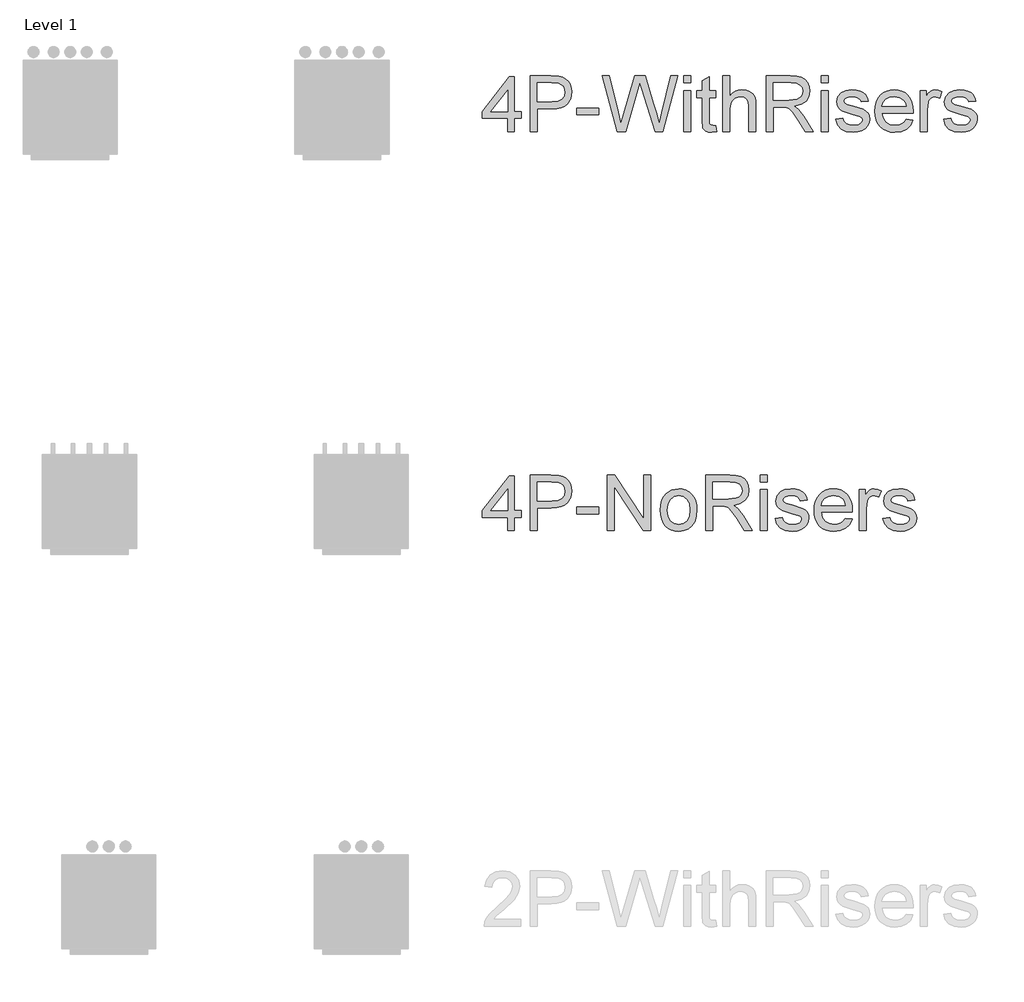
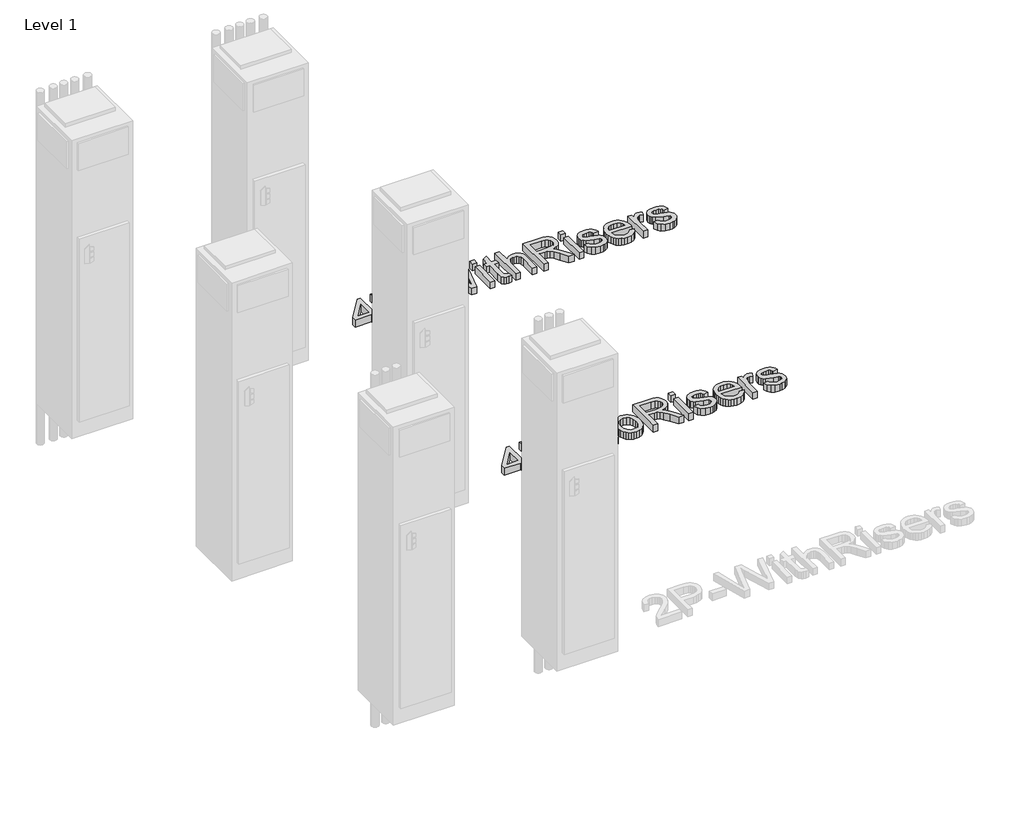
# One storey, part 2 of 2: 2 proxies.
"""IFC4 building model written with IfcOpenShell, lengths in millimetres."""

from ifc_helpers import new_model, si_unit, origin, origin_with_axes, place, context, project, spatial, polyline, outline, extrude, element, save

model = new_model("IFC4")

# Units and contexts
model_context = context("Model", 3, world=origin())
ifc_project = project(units=[si_unit("LENGTHUNIT", "METRE", prefix="MILLI")], contexts=[model_context])

# Site, building, storey
site = spatial("IfcSite", under=ifc_project)
building = spatial("IfcBuilding", under=site)
storey = spatial("IfcBuildingStorey", under=building, Name="Level 1", Elevation=0.0)

# Proxies
placement = place(None, origin())
element("IfcBuildingElementProxy", 1, Name="12\" Arial", ObjectType="12\" Arial", at=placement, inside=storey, context=model_context, shape_type="SweptSolid", body=[
    extrude(outline(polyline([(-12761.6441001, 1373.4966176), (-12761.6441001, 1433.2995147), (-12877.2630346, 1433.2995147), (-12877.2630346, 1465.1943932), (-12753.6703805, 1624.6687856), (-12729.7492217, 1624.6687856), (-12729.7492217, 1465.1943932), (-12697.8543432, 1465.1943932), (-12697.8543432, 1433.2995147), (-12729.7492217, 1433.2995147), (-12729.7492217, 1373.4966176), (-12761.6441001, 1373.4966176)]), holes=[polyline([(-12761.6441001, 1465.1943932), (-12761.6441001, 1563.7445841), (-12838.0173834, 1465.1943932), (-12761.6441001, 1465.1943932)])]), origin_with_axes(), (0.0, 0.0, 1.0), 50.8),
    extrude(outline(polyline([(-12657.9857451, 1373.4966176), (-12657.9857451, 1628.6556454), (-12563.422414, 1628.6556454), (-12525.2980671, 1626.2261527), (-12508.2994051, 1621.6864275), (-12494.3064615, 1614.2967206), (-12483.0389105, 1603.7221979), (-12474.2164258, 1589.6280255), (-12468.5164622, 1573.0031316), (-12466.6164743, 1554.8364442), (-12471.7479989, 1524.7636853), (-12487.1425728, 1499.7056484), (-12499.4710802, 1489.8397278), (-12515.9305039, 1482.7926416), (-12536.5208438, 1478.5643899), (-12561.2421001, 1477.1549726), (-12626.0908666, 1477.1549726), (-12626.0908666, 1373.4966176), (-12657.9857451, 1373.4966176)]), holes=[polyline([(-12626.0908666, 1509.0498511), (-12559.3732595, 1509.0498511), (-12531.0914727, 1511.9777013), (-12512.4030674, 1520.7612518), (-12501.9842814, 1534.8554242), (-12498.5113527, 1553.7151399), (-12500.5592905, 1568.0429173), (-12506.7031038, 1580.1280861), (-12516.1796826, 1589.2231101), (-12528.2259173, 1594.5804529), (-12560.1207957, 1596.7607669), (-12626.0908666, 1596.7607669), (-12626.0908666, 1509.0498511)])]), origin_with_axes(), (0.0, 0.0, 1.0), 50.8),
    extrude(outline(polyline([(-12442.6953154, 1449.246954), (-12442.6953154, 1481.1418324), (-12343.0238202, 1481.1418324), (-12343.0238202, 1449.246954), (-12442.6953154, 1449.246954)])), origin_with_axes(), (0.0, 0.0, 1.0), 50.8),
    extrude(outline(polyline([(-12303.1552221, 1373.4966176), (-12303.1552221, 1628.6556454), (-12269.017735, 1628.6556454), (-12135.7071101, 1426.5093941), (-12135.7071101, 1628.6556454), (-12103.8122316, 1628.6556454), (-12103.8122316, 1373.4966176), (-12137.9497188, 1373.4966176), (-12271.2603436, 1575.7051635), (-12271.2603436, 1373.4966176), (-12303.1552221, 1373.4966176)])), origin_with_axes(), (0.0, 0.0, 1.0), 50.8),
    extrude(outline(polyline([(-12059.9567737, 1467.1878231), (-12058.2319897, 1491.4554961), (-12053.0576374, 1512.367043), (-12044.4337171, 1529.9224638), (-12032.3602285, 1544.1217585), (-12006.7882605, 1559.6798559), (-11976.1704231, 1564.8658884), (-11958.5741214, 1563.2871075), (-11942.6636696, 1558.5507648), (-11928.4390678, 1550.6568602), (-11915.9003158, 1539.6053938), (-11905.6664672, 1525.7701338), (-11898.3565753, 1509.5248481), (-11893.9706401, 1490.8695368), (-11892.5086618, 1469.8041998), (-11895.0938912, 1437.5822743), (-11902.8495794, 1413.0537422), (-11915.5499082, 1394.6845972), (-11932.9690594, 1380.9408324), (-11953.6586815, 1372.3675264), (-11976.1704231, 1369.5097578), (-11994.0236903, 1371.0826986), (-12010.082092, 1375.8015209), (-12024.345628, 1383.6662248), (-12036.8142985, 1394.6768103), (-12046.9391314, 1408.6463933), (-12054.1711549, 1425.3880898), (-12058.510369, 1444.9018997), (-12059.9567737, 1467.1878231)]), holes=[polyline([(-12028.0618953, 1467.2501178), (-12024.3709352, 1438.3843183), (-12013.298055, 1417.8192856), (-11996.6342269, 1405.5082986), (-11976.1704231, 1401.4046362), (-11955.8000612, 1405.5316591), (-11939.1673805, 1417.9127276), (-11928.0945003, 1438.7502996), (-11924.4035402, 1468.2468327), (-11928.1178608, 1496.2716539), (-11939.2608225, 1516.5563606), (-11955.9168638, 1528.8673476), (-11976.1704231, 1532.9710099), (-11996.6342269, 1528.8829213), (-12013.298055, 1516.6186553), (-12024.3709352, 1496.1003435), (-12028.0618953, 1467.2501178)])]), origin_with_axes(), (0.0, 0.0, 1.0), 50.8),
    extrude(outline(polyline([(-11852.6400637, 1373.4966176), (-11852.6400637, 1628.6556454), (-11742.6899455, 1628.6556454), (-11713.1389045, 1626.9347547), (-11691.6394515, 1621.7720827), (-11675.9256174, 1612.240996), (-11663.7314329, 1597.4148611), (-11655.9056631, 1579.0301423), (-11653.2970732, 1558.823304), (-11657.618767, 1533.6873988), (-11670.5838482, 1512.8498268), (-11692.5816586, 1497.5720555), (-11724.0015402, 1489.115552), (-11705.873787, 1475.4730161), (-11680.0214929, 1442.6437174), (-11637.4742234, 1373.4966176), (-11674.5395606, 1373.4966176), (-11707.7426275, 1426.3848047), (-11731.726081, 1461.3944174), (-11748.5767932, 1477.9336562), (-11763.7455489, 1484.0073879), (-11782.2470702, 1485.1286922), (-11820.7451852, 1485.1286922), (-11820.7451852, 1373.4966176), (-11852.6400637, 1373.4966176)]), holes=[polyline([(-11820.7451852, 1517.0235707), (-11749.3554768, 1517.0235707), (-11712.9442337, 1521.5399353), (-11700.9680806, 1527.4112094), (-11692.2623984, 1535.9923021), (-11686.9595634, 1546.372154), (-11685.1919517, 1557.639705), (-11688.5636515, 1573.1978025), (-11698.6787509, 1585.7346077), (-11716.0823284, 1594.0042271), (-11741.3194624, 1596.7607669), (-11820.7451852, 1596.7607669), (-11820.7451852, 1517.0235707)])]), origin_with_axes(), (0.0, 0.0, 1.0), 50.8),
    extrude(outline(polyline([(-11601.4678957, 1596.7607669), (-11601.4678957, 1628.6556454), (-11569.5730172, 1628.6556454), (-11569.5730172, 1596.7607669), (-11601.4678957, 1596.7607669)])), origin_with_axes(), (0.0, 0.0, 1.0), 50.8),
    extrude(outline(polyline([(-11601.4678957, 1373.4966176), (-11601.4678957, 1560.8790286), (-11569.5730172, 1560.8790286), (-11569.5730172, 1373.4966176), (-11601.4678957, 1373.4966176)])), origin_with_axes(), (0.0, 0.0, 1.0), 50.8),
    extrude(outline(polyline([(-11533.691279, 1429.3126549), (-11501.7964005, 1433.2995147), (-11496.7661047, 1419.6569788), (-11487.0325603, 1409.6275346), (-11472.5334724, 1403.4603608), (-11453.2065466, 1401.4046362), (-11434.1132258, 1403.2890505), (-11420.6887212, 1408.9422931), (-11412.746149, 1417.1340441), (-11410.0986249, 1426.6339835), (-11412.7617226, 1434.7634398), (-11420.7510159, 1440.9617609), (-11453.5803147, 1450.0567849), (-11501.6095164, 1465.6616033), (-11513.7647667, 1473.5029467), (-11522.5716778, 1483.8827985), (-11527.9212338, 1496.1392777), (-11529.7044191, 1509.6105032), (-11523.9733082, 1533.3759254), (-11508.3373424, 1551.5348259), (-11488.0604225, 1560.9724706), (-11460.619614, 1564.8658884), (-11439.8599104, 1563.3007345), (-11421.8100256, 1558.6052726), (-11407.2953641, 1551.2389262), (-11397.1413305, 1541.6611184), (-11390.4135046, 1529.1632474), (-11386.177466, 1513.0367109), (-11418.0723445, 1509.0498511), (-11422.0981385, 1519.0870821), (-11430.0640713, 1526.6480995), (-11442.0480112, 1531.3902823), (-11458.1278266, 1532.9710099), (-11476.4424639, 1531.4603638), (-11488.652222, 1526.9284255), (-11495.520211, 1520.3874837), (-11497.8095407, 1512.8498268), (-11494.0095649, 1503.5679189), (-11482.1112802, 1496.5286195), (-11454.6393243, 1489.7384989), (-11407.8248689, 1474.7254799), (-11395.459374, 1467.5460175), (-11386.084024, 1457.719031), (-11380.1738158, 1445.2133731), (-11378.2037464, 1429.9978964), (-11380.5164366, 1414.2684886), (-11387.4545071, 1399.473501), (-11398.7532055, 1386.7731722), (-11414.1477794, 1377.3277407), (-11432.7427427, 1371.4642535), (-11453.6426093, 1369.5097578), (-11485.8022402, 1373.2785862), (-11509.2717626, 1384.5850714), (-11524.9388758, 1403.3046241), (-11533.691279, 1429.3126549)])), origin_with_axes(), (0.0, 0.0, 1.0), 50.8),
    extrude(outline(polyline([(-11211.1294025, 1429.3126549), (-11179.8574709, 1425.3257951), (-11191.125022, 1401.7628307), (-11209.1048253, 1384.1490086), (-11233.3919654, 1373.1695705), (-11263.5815269, 1369.5097578), (-11283.3717695, 1371.0885387), (-11301.0050586, 1375.8248814), (-11316.4813943, 1383.718786), (-11329.8007765, 1394.7702523), (-11340.5115688, 1408.6717005), (-11348.1621348, 1425.1155505), (-11352.7524744, 1444.1018024), (-11354.2825875, 1465.630456), (-11352.7369007, 1487.8891254), (-11348.0998401, 1507.5080576), (-11340.3714058, 1524.4872526), (-11329.5515978, 1538.8267103), (-11316.2672563, 1550.2188507), (-11301.1452217, 1558.3560939), (-11284.1854938, 1563.2384398), (-11265.3880727, 1564.8658884), (-11247.1960782, 1563.2423332), (-11230.7444413, 1558.3716676), (-11216.0331622, 1550.2538915), (-11203.0622409, 1538.889005), (-11192.4740912, 1524.5806946), (-11184.9111272, 1507.632647), (-11180.3733488, 1488.0448622), (-11178.8607559, 1465.81734), (-11179.04764, 1457.2206736), (-11322.3877091, 1457.2206736), (-11316.8668427, 1433.3462357), (-11304.0419245, 1415.7947084), (-11285.5326163, 1405.0021543), (-11262.95858, 1401.4046362), (-11245.9832785, 1403.0710191), (-11231.6866484, 1408.0701675), (-11220.0686898, 1416.713555), (-11211.1294025, 1429.3126549)]), holes=[polyline([(-11322.3877091, 1489.115552), (-11210.7556344, 1489.115552), (-11215.0695413, 1505.9662642), (-11223.5260447, 1518.0202857), (-11242.1210081, 1529.2333289), (-11265.5126621, 1532.9710099), (-11287.0121151, 1529.9886519), (-11304.7894607, 1521.0415779), (-11317.1471687, 1507.0953554), (-11322.3877091, 1489.115552)])]), origin_with_axes(), (0.0, 0.0, 1.0), 50.8),
    extrude(outline(polyline([(-11146.9658775, 1373.4966176), (-11146.9658775, 1560.8790286), (-11119.0578588, 1560.8790286), (-11119.0578588, 1533.157894), (-11108.7480885, 1549.2299226), (-11099.2481491, 1558.6987146), (-11089.7170624, 1563.324095), (-11079.3138501, 1564.8658884), (-11063.4287055, 1562.4052484), (-11047.2943822, 1555.0233283), (-11057.9467733, 1526.4300681), (-11080.3728597, 1532.9710099), (-11089.8961596, 1531.3980692), (-11098.4071709, 1526.6792468), (-11105.2829467, 1519.1727373), (-11109.9005402, 1509.2367351), (-11115.070999, 1471.9845138), (-11115.070999, 1373.4966176), (-11146.9658775, 1373.4966176)])), origin_with_axes(), (0.0, 0.0, 1.0), 50.8),
    extrude(outline(polyline([(-11039.3206626, 1429.3126549), (-11007.4257842, 1433.2995147), (-11002.3954884, 1419.6569788), (-10992.6619439, 1409.6275346), (-10978.1628561, 1403.4603608), (-10958.8359302, 1401.4046362), (-10939.7426094, 1403.2890505), (-10926.3181049, 1408.9422931), (-10918.3755326, 1417.1340441), (-10915.7280085, 1426.6339835), (-10918.3911063, 1434.7634398), (-10926.3803996, 1440.9617609), (-10959.2096983, 1450.0567849), (-11007.2389001, 1465.6616033), (-11019.3941504, 1473.5029467), (-11028.2010614, 1483.8827985), (-11033.5506175, 1496.1392777), (-11035.3338028, 1509.6105032), (-11029.6026918, 1533.3759254), (-11013.966726, 1551.5348259), (-10993.6898062, 1560.9724706), (-10966.2489977, 1564.8658884), (-10945.4892941, 1563.3007345), (-10927.4394092, 1558.6052726), (-10912.9247477, 1551.2389262), (-10902.7707142, 1541.6611184), (-10896.0428882, 1529.1632474), (-10891.8068497, 1513.0367109), (-10923.7017282, 1509.0498511), (-10927.7275222, 1519.0870821), (-10935.6934549, 1526.6480995), (-10947.6773949, 1531.3902823), (-10963.7572103, 1532.9710099), (-10982.0718476, 1531.4603638), (-10994.2816057, 1526.9284255), (-11001.1495947, 1520.3874837), (-11003.4389243, 1512.8498268), (-10999.6389486, 1503.5679189), (-10987.7406639, 1496.5286195), (-10960.268708, 1489.7384989), (-10913.4542526, 1474.7254799), (-10901.0887577, 1467.5460175), (-10891.7134077, 1457.719031), (-10885.8031995, 1445.2133731), (-10883.8331301, 1429.9978964), (-10886.1458202, 1414.2684886), (-10893.0838907, 1399.473501), (-10904.3825891, 1386.7731722), (-10919.777163, 1377.3277407), (-10938.3721264, 1371.4642535), (-10959.271993, 1369.5097578), (-10991.4316239, 1373.2785862), (-11014.9011463, 1384.5850714), (-11030.5682595, 1403.3046241), (-11039.3206626, 1429.3126549)])), origin_with_axes(), (0.0, 0.0, 1.0), 50.8),
])
element("IfcBuildingElementProxy", 2, Name="12\" Arial", ObjectType="12\" Arial", at=placement, inside=storey, context=model_context, shape_type="SweptSolid", body=[
    extrude(outline(polyline([(-12761.6441001, 3205.8199401), (-12761.6441001, 3265.6228372), (-12877.2630346, 3265.6228372), (-12877.2630346, 3297.5177157), (-12753.6703805, 3456.992108), (-12729.7492217, 3456.992108), (-12729.7492217, 3297.5177157), (-12697.8543432, 3297.5177157), (-12697.8543432, 3265.6228372), (-12729.7492217, 3265.6228372), (-12729.7492217, 3205.8199401), (-12761.6441001, 3205.8199401)]), holes=[polyline([(-12761.6441001, 3297.5177157), (-12761.6441001, 3396.0679066), (-12838.0173834, 3297.5177157), (-12761.6441001, 3297.5177157)])]), origin_with_axes(), (0.0, 0.0, 1.0), 50.8),
    extrude(outline(polyline([(-12657.9857451, 3205.8199401), (-12657.9857451, 3460.9789678), (-12563.422414, 3460.9789678), (-12525.2980671, 3458.5494751), (-12508.2994051, 3454.00975), (-12494.3064615, 3446.6200431), (-12483.0389105, 3436.0455204), (-12474.2164258, 3421.951348), (-12468.5164622, 3405.3264541), (-12466.6164743, 3387.1597667), (-12471.7479989, 3357.0870077), (-12487.1425728, 3332.0289709), (-12499.4710802, 3322.1630502), (-12515.9305039, 3315.1159641), (-12536.5208438, 3310.8877123), (-12561.2421001, 3309.4782951), (-12626.0908666, 3309.4782951), (-12626.0908666, 3205.8199401), (-12657.9857451, 3205.8199401)]), holes=[polyline([(-12626.0908666, 3341.3731736), (-12559.3732595, 3341.3731736), (-12531.0914727, 3344.3010237), (-12512.4030674, 3353.0845743), (-12501.9842814, 3367.1787466), (-12498.5113527, 3386.0384624), (-12500.5592905, 3400.3662398), (-12506.7031038, 3412.4514086), (-12516.1796826, 3421.5464325), (-12528.2259173, 3426.9037754), (-12560.1207957, 3429.0840894), (-12626.0908666, 3429.0840894), (-12626.0908666, 3341.3731736)])]), origin_with_axes(), (0.0, 0.0, 1.0), 50.8),
    extrude(outline(polyline([(-12442.6953154, 3281.5702764), (-12442.6953154, 3313.4651549), (-12343.0238202, 3313.4651549), (-12343.0238202, 3281.5702764), (-12442.6953154, 3281.5702764)])), origin_with_axes(), (0.0, 0.0, 1.0), 50.8),
    extrude(outline(polyline([(-12257.4932184, 3205.8199401), (-12327.076381, 3460.9789678), (-12294.1847875, 3460.9789678), (-12253.817832, 3293.2816771), (-12241.3588951, 3241.5147943), (-12228.0278326, 3287.3013874), (-12177.4445487, 3460.9789678), (-12130.0382938, 3460.9789678), (-12093.28443, 3335.0814104), (-12077.5394485, 3288.3603971), (-12065.9370635, 3241.5147943), (-12053.8518947, 3291.7866047), (-12013.111171, 3460.9789678), (-11980.2195776, 3460.9789678), (-12049.8650349, 3205.8199401), (-12083.9402273, 3205.8199401), (-12145.1136075, 3402.6711431), (-12153.6479793, 3430.143099), (-12163.2413607, 3397.0646215), (-12218.9951033, 3205.8199401), (-12257.4932184, 3205.8199401)])), origin_with_axes(), (0.0, 0.0, 1.0), 50.8),
    extrude(outline(polyline([(-11952.3115589, 3205.8199401), (-11952.3115589, 3393.2023511), (-11920.4166804, 3393.2023511), (-11920.4166804, 3205.8199401), (-11952.3115589, 3205.8199401)])), origin_with_axes(), (0.0, 0.0, 1.0), 50.8),
    extrude(outline(polyline([(-11952.3115589, 3429.0840894), (-11952.3115589, 3460.9789678), (-11920.4166804, 3460.9789678), (-11920.4166804, 3429.0840894), (-11952.3115589, 3429.0840894)])), origin_with_axes(), (0.0, 0.0, 1.0), 50.8),
    extrude(outline(polyline([(-11804.797746, 3232.4197704), (-11800.8108862, 3204.8855198), (-11824.6697503, 3201.8330803), (-11839.9786691, 3203.1568423), (-11851.39417, 3207.1281284), (-11864.7252325, 3221.0198431), (-11868.5875029, 3257.2130548), (-11868.5875029, 3361.3074726), (-11892.5086618, 3361.3074726), (-11892.5086618, 3393.2023511), (-11868.5875029, 3393.2023511), (-11868.5875029, 3438.7397655), (-11836.6926244, 3457.4904655), (-11836.6926244, 3393.2023511), (-11804.797746, 3393.2023511), (-11804.797746, 3361.3074726), (-11836.6926244, 3361.3074726), (-11836.6926244, 3258.1474751), (-11835.010668, 3241.7016783), (-11829.5598831, 3235.8771253), (-11818.6894606, 3233.7279587), (-11804.797746, 3232.4197704)])), origin_with_axes(), (0.0, 0.0, 1.0), 50.8),
    extrude(outline(polyline([(-11772.9028675, 3205.8199401), (-11772.9028675, 3460.9789678), (-11741.007989, 3460.9789678), (-11741.007989, 3367.163173), (-11729.2926949, 3380.2995646), (-11716.1368362, 3389.6827014), (-11701.540413, 3395.3125835), (-11685.5034251, 3397.1892109), (-11666.2387939, 3395.1412731), (-11649.6839815, 3388.9974599), (-11636.6488188, 3379.2405549), (-11627.9431366, 3366.3533421), (-11623.0374302, 3348.646078), (-11621.4021948, 3324.4290194), (-11621.4021948, 3205.8199401), (-11653.2970732, 3205.8199401), (-11653.2970732, 3321.1274011), (-11655.8355816, 3341.0928475), (-11663.4511068, 3354.7665307), (-11675.7231597, 3362.662382), (-11692.231251, 3365.2943324), (-11705.7102634, 3363.5189339), (-11718.3638712, 3358.1927384), (-11728.8449519, 3349.829677), (-11735.8063829, 3338.9436809), (-11739.7075875, 3324.4757404), (-11741.007989, 3305.3668459), (-11741.007989, 3205.8199401), (-11772.9028675, 3205.8199401)])), origin_with_axes(), (0.0, 0.0, 1.0), 50.8),
    extrude(outline(polyline([(-11573.559877, 3205.8199401), (-11573.559877, 3460.9789678), (-11463.6097589, 3460.9789678), (-11434.0587179, 3459.2580772), (-11412.5592649, 3454.0954052), (-11396.8454307, 3444.5643185), (-11384.6512462, 3429.7381836), (-11376.8254765, 3411.3534648), (-11374.2168866, 3391.1466265), (-11378.5385803, 3366.0107213), (-11391.5036615, 3345.1731493), (-11413.501472, 3329.895378), (-11444.9213535, 3321.4388745), (-11426.7936003, 3307.7963386), (-11400.9413062, 3274.9670399), (-11358.3940367, 3205.8199401), (-11395.459374, 3205.8199401), (-11428.6624409, 3258.7081272), (-11452.6458944, 3293.7177399), (-11469.4966066, 3310.2569787), (-11484.6653622, 3316.3307104), (-11503.1668835, 3317.4520147), (-11541.6649986, 3317.4520147), (-11541.6649986, 3205.8199401), (-11573.559877, 3205.8199401)]), holes=[polyline([(-11541.6649986, 3349.3468932), (-11470.2752901, 3349.3468932), (-11433.864047, 3353.8632578), (-11421.8878939, 3359.7345318), (-11413.1822118, 3368.3156246), (-11407.8793767, 3378.6954764), (-11406.1117651, 3389.9630275), (-11409.4834649, 3405.521125), (-11419.5985643, 3418.0579302), (-11437.0021417, 3426.3275496), (-11462.2392758, 3429.0840894), (-11541.6649986, 3429.0840894), (-11541.6649986, 3349.3468932)])]), origin_with_axes(), (0.0, 0.0, 1.0), 50.8),
    extrude(outline(polyline([(-11322.3877091, 3429.0840894), (-11322.3877091, 3460.9789678), (-11290.4928306, 3460.9789678), (-11290.4928306, 3429.0840894), (-11322.3877091, 3429.0840894)])), origin_with_axes(), (0.0, 0.0, 1.0), 50.8),
    extrude(outline(polyline([(-11322.3877091, 3205.8199401), (-11322.3877091, 3393.2023511), (-11290.4928306, 3393.2023511), (-11290.4928306, 3205.8199401), (-11322.3877091, 3205.8199401)])), origin_with_axes(), (0.0, 0.0, 1.0), 50.8),
    extrude(outline(polyline([(-11254.6110923, 3261.6359774), (-11222.7162138, 3265.6228372), (-11217.6859181, 3251.9803013), (-11207.9523736, 3241.9508571), (-11193.4532858, 3235.7836833), (-11174.1263599, 3233.7279587), (-11155.0330391, 3235.6123729), (-11141.6085346, 3241.2656156), (-11133.6659623, 3249.4573666), (-11131.0184382, 3258.957306), (-11133.681536, 3267.0867623), (-11141.6708293, 3273.2850834), (-11174.500128, 3282.3801073), (-11222.5293298, 3297.9849258), (-11234.6845801, 3305.8262692), (-11243.4914911, 3316.206121), (-11248.8410472, 3328.4626002), (-11250.6242325, 3341.9338257), (-11244.8931215, 3365.6992479), (-11229.2571557, 3383.8581484), (-11208.9802359, 3393.2957931), (-11181.5394274, 3397.1892109), (-11160.7797238, 3395.624057), (-11142.7298389, 3390.9285951), (-11128.2151774, 3383.5622487), (-11118.0611439, 3373.9844409), (-11111.3333179, 3361.4865698), (-11107.0972794, 3345.3600334), (-11138.9921579, 3341.3731736), (-11143.0179518, 3351.4104046), (-11150.9838846, 3358.971422), (-11162.9678246, 3363.7136048), (-11179.04764, 3365.2943324), (-11197.3622772, 3363.7836863), (-11209.5720354, 3359.251748), (-11216.4400244, 3352.7108062), (-11218.729354, 3345.1731493), (-11214.9293783, 3335.8912413), (-11203.0310935, 3328.851942), (-11175.5591377, 3322.0618214), (-11128.7446823, 3307.0488024), (-11116.3791874, 3299.86934), (-11107.0038374, 3290.0423535), (-11101.0936292, 3277.5366956), (-11099.1235598, 3262.3212189), (-11101.4362499, 3246.5918111), (-11108.3743204, 3231.7968235), (-11119.6730188, 3219.0964947), (-11135.0675927, 3209.6510632), (-11153.6625561, 3203.787576), (-11174.5624227, 3201.8330803), (-11206.7220536, 3205.6019087), (-11230.191576, 3216.9083939), (-11245.8586891, 3235.6279466), (-11254.6110923, 3261.6359774)])), origin_with_axes(), (0.0, 0.0, 1.0), 50.8),
    extrude(outline(polyline([(-10932.0492159, 3261.6359774), (-10900.7772843, 3257.6491176), (-10912.0448353, 3234.0861532), (-10930.0246386, 3216.4723311), (-10954.3117788, 3205.492893), (-10984.5013403, 3201.8330803), (-11004.2915828, 3203.4118612), (-11021.924872, 3208.1482039), (-11037.4012077, 3216.0421085), (-11050.7205899, 3227.0935748), (-11061.4313822, 3240.995023), (-11069.0819482, 3257.438873), (-11073.6722877, 3276.4251248), (-11075.2024009, 3297.9537785), (-11073.6567141, 3320.2124479), (-11069.0196535, 3339.8313801), (-11061.2912192, 3356.8105751), (-11050.4714112, 3371.1500328), (-11037.1870697, 3382.5421732), (-11022.065035, 3390.6794164), (-11005.1053072, 3395.5617623), (-10986.3078861, 3397.1892109), (-10968.1158915, 3395.5656557), (-10951.6642547, 3390.69499), (-10936.9529756, 3382.577214), (-10923.9820542, 3371.2123275), (-10913.3939046, 3356.9040171), (-10905.8309405, 3339.9559695), (-10901.2931621, 3320.3681846), (-10899.7805693, 3298.1406625), (-10899.9674534, 3289.5439961), (-11043.3075224, 3289.5439961), (-11037.786656, 3265.6695582), (-11024.9617378, 3248.1180309), (-11006.4524297, 3237.3254768), (-10983.8783934, 3233.7279587), (-10966.9030919, 3235.3943415), (-10952.6064618, 3240.39349), (-10940.9885031, 3249.0368774), (-10932.0492159, 3261.6359774)]), holes=[polyline([(-11043.3075224, 3321.4388745), (-10931.6754478, 3321.4388745), (-10935.9893547, 3338.2895867), (-10944.4458581, 3350.3436081), (-10963.0408214, 3361.5566514), (-10986.4324755, 3365.2943324), (-11007.9319285, 3362.3119744), (-11025.7092741, 3353.3649003), (-11038.0669821, 3339.4186778), (-11043.3075224, 3321.4388745)])]), origin_with_axes(), (0.0, 0.0, 1.0), 50.8),
    extrude(outline(polyline([(-10867.8856908, 3205.8199401), (-10867.8856908, 3393.2023511), (-10839.9776722, 3393.2023511), (-10839.9776722, 3365.4812165), (-10829.6679019, 3381.5532451), (-10820.1679625, 3391.0220371), (-10810.6368758, 3395.6474175), (-10800.2336635, 3397.1892109), (-10784.3485189, 3394.7285709), (-10768.2141956, 3387.3466507), (-10778.8665867, 3358.7533906), (-10801.2926731, 3365.2943324), (-10810.815973, 3363.7213916), (-10819.3269843, 3359.0025693), (-10826.2027601, 3351.4960598), (-10830.8203536, 3341.5600576), (-10835.9908124, 3304.3078363), (-10835.9908124, 3205.8199401), (-10867.8856908, 3205.8199401)])), origin_with_axes(), (0.0, 0.0, 1.0), 50.8),
    extrude(outline(polyline([(-10760.240476, 3261.6359774), (-10728.3455975, 3265.6228372), (-10723.3153017, 3251.9803013), (-10713.5817573, 3241.9508571), (-10699.0826695, 3235.7836833), (-10679.7557436, 3233.7279587), (-10660.6624228, 3235.6123729), (-10647.2379183, 3241.2656156), (-10639.295346, 3249.4573666), (-10636.6478219, 3258.957306), (-10639.3109197, 3267.0867623), (-10647.300213, 3273.2850834), (-10680.1295117, 3282.3801073), (-10728.1587135, 3297.9849258), (-10740.3139638, 3305.8262692), (-10749.1208748, 3316.206121), (-10754.4704308, 3328.4626002), (-10756.2536162, 3341.9338257), (-10750.5225052, 3365.6992479), (-10734.8865394, 3383.8581484), (-10714.6096196, 3393.2957931), (-10687.1688111, 3397.1892109), (-10666.4091074, 3395.624057), (-10648.3592226, 3390.9285951), (-10633.8445611, 3383.5622487), (-10623.6905275, 3373.9844409), (-10616.9627016, 3361.4865698), (-10612.7266631, 3345.3600334), (-10644.6215415, 3341.3731736), (-10648.6473355, 3351.4104046), (-10656.6132683, 3358.971422), (-10668.5972082, 3363.7136048), (-10684.6770237, 3365.2943324), (-10702.9916609, 3363.7836863), (-10715.2014191, 3359.251748), (-10722.0694081, 3352.7108062), (-10724.3587377, 3345.1731493), (-10720.558762, 3335.8912413), (-10708.6604772, 3328.851942), (-10681.1885213, 3322.0618214), (-10634.3740659, 3307.0488024), (-10622.0085711, 3299.86934), (-10612.633221, 3290.0423535), (-10606.7230128, 3277.5366956), (-10604.7529434, 3262.3212189), (-10607.0656336, 3246.5918111), (-10614.0037041, 3231.7968235), (-10625.3024025, 3219.0964947), (-10640.6969764, 3209.6510632), (-10659.2919397, 3203.787576), (-10680.1918064, 3201.8330803), (-10712.3514373, 3205.6019087), (-10735.8209597, 3216.9083939), (-10751.4880728, 3235.6279466), (-10760.240476, 3261.6359774)])), origin_with_axes(), (0.0, 0.0, 1.0), 50.8),
])

save(model, "model.ifc")
